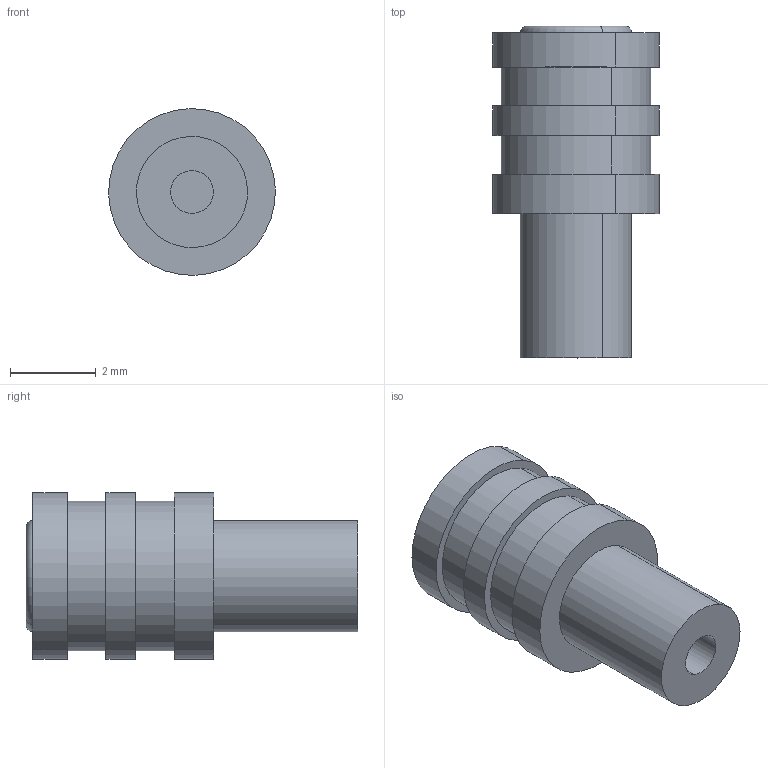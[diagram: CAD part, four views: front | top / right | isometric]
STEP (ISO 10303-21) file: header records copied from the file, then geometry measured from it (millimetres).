
FILE_DESCRIPTION(('CATIA V5 STEP Exchange','CAx-IF Rec.Pracs.--- Model Styling and Organization---1.4--- 2014-01-23'),'2;1');
FILE_NAME('c:\temp\enazli\14000-______LW-_____1_-SINGLWWIRESEAL_DUMMY_-_________-NAZ_-100418.stp','2018-04-11T07:55:29+00:00',('none'),('none'),'CATIA Version 5-6 Release 2016 SP5 HF9','CATIA V5 STEP AP214','none');
FILE_SCHEMA(('AUTOMOTIVE_DESIGN { 1 0 10303 214 1 1 1 1 }'));
Length unit declared in the file: millimetre
Products named in the file (1): 14000-______LW
Bounding box: 3.9 x 7.76 x 3.9 mm (x, y, z)
Volume: 62.5 mm3; surface area: 116.6 mm2
Topology: 1 solids, 1 shells, 28 faces, 54 edges, 36 vertices
Faces by surface type: cylinder 14, plane 10, cone 2, torus 2
Entity records: 654 total; most frequent: ORIENTED_EDGE 108, CARTESIAN_POINT 106, DIRECTION 84, AXIS2_PLACEMENT_3D 54, EDGE_CURVE 54, CIRCLE 38, EDGE_LOOP 36, VERTEX_POINT 36
